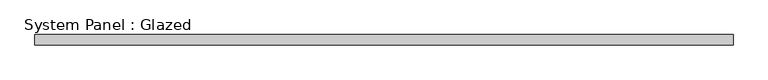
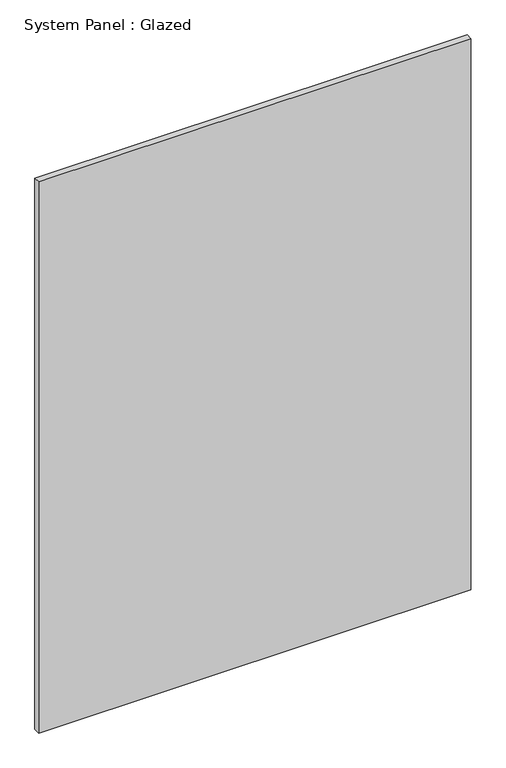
"""IFC4 building model written with IfcOpenShell, lengths in millimetres: plate geometry, System Panel : Glazed."""

from ifc_helpers import new_model, si_unit, origin, origin_with_axes, place, context, project, spatial, polyline, outline, extrude, source, transform, mapped, element, save


def system_panel_glazed_71094098(model_context):
    return source(origin(), model_context, "Body", "SweptSolid", [
        extrude(outline(polyline([(855.4684602, 19.05), (-855.4684602, 19.05), (-855.4684602, 44.45), (855.4684602, 44.45), (855.4684602, 19.05)])), origin_with_axes(), (0.0, 0.0, 1.0), 2307.6414857),
    ])


if __name__ == "__main__":
    model = new_model("IFC4")
    model_context = context("Model", 3, world=origin())
    ifc_project = project(units=[si_unit("LENGTHUNIT", "METRE", prefix="MILLI")], contexts=[model_context])
    site = spatial("IfcSite", under=ifc_project)
    building = spatial("IfcBuilding", under=site)
    placement = place(None, origin())
    system_panel_glazed_shape = system_panel_glazed_71094098(model_context)
    element("IfcPlate", 1, ObjectType="System Panel : Glazed", at=placement, inside=building, context=model_context, shape_type="MappedRepresentation", body=[
        mapped(system_panel_glazed_shape, transform((0.0, 0.0, 0.0), x_axis=(1.0, 0.0, 0.0), y_axis=(0.0, 1.0, 0.0), z_axis=(0.0, 0.0, 1.0))),
    ])
    save(model, "model.ifc")
